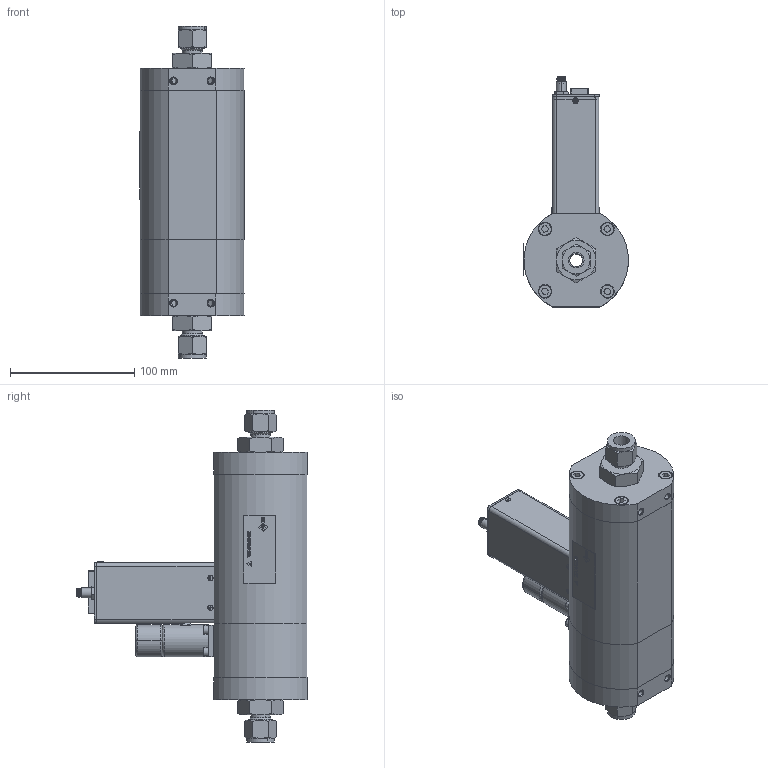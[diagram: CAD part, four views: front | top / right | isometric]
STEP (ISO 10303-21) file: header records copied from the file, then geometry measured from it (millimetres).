
FILE_DESCRIPTION (( 'STEP AP203' ), '1' );
FILE_NAME ('SLA5853-8-2D-2-A-REVB.STEP', '2020-09-11T12:26:41', ( '' ), ( '' ), 'SwSTEP 2.0', 'SolidWorks 2020', '' );
FILE_SCHEMA (( 'CONFIG_CONTROL_DESIGN' ));
Products named in the file (1): SLA5853-8-2D-2-A-REVB
Bounding box: 84.02 x 184.93 x 266.87 mm (x, y, z)
Volume: 543446.7 mm3; surface area: 219318 mm2
Topology: 72 solids, 72 shells, 2548 faces, 6487 edges, 4162 vertices
Faces by surface type: plane 1524, cylinder 559, cone 316, bspline 149
Entity records: 86527 total; most frequent: CARTESIAN_POINT 25216, ORIENTED_EDGE 12898, DIRECTION 12261, EDGE_CURVE 6449, LINE 4471, VECTOR 4471, VERTEX_POINT 4162, AXIS2_PLACEMENT_3D 3895
